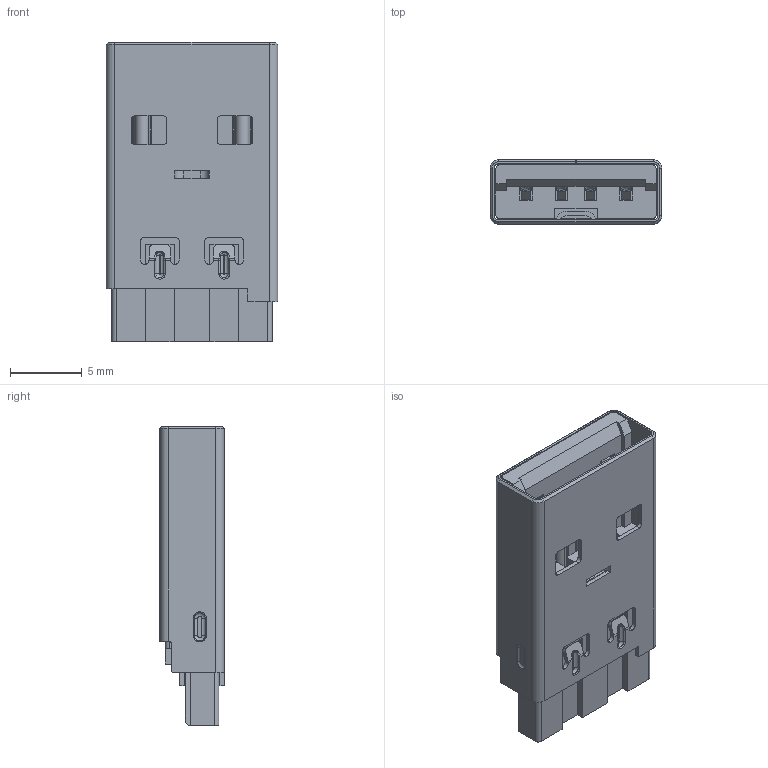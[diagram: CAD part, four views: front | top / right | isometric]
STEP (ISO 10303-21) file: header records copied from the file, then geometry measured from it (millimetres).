
FILE_DESCRIPTION(('STEP AP242'),'1');
FILE_NAME('691c104-290-120.stp','2023-08-29T02:45:16',('TraceParts'),('TraceParts S.A.'),'Spatial InterOp 3D',' ',' ');
FILE_SCHEMA(('AP242_MANAGED_MODEL_BASED_3D_ENGINEERING_MIM_LF {1 0 10303 442 1 1 4}'));
Length unit declared in the file: millimetre
Products named in the file (1): 691c104-290-120_1
Bounding box: 12 x 4.5 x 20.9 mm (x, y, z)
Volume: 630.2 mm3; surface area: 2246.7 mm2
Topology: 6 solids, 6 shells, 1007 faces, 2559 edges, 1508 vertices
Faces by surface type: plane 476, bspline 317, cylinder 210, cone 4
Entity records: 43356 total; most frequent: CARTESIAN_POINT 22263, ORIENTED_EDGE 5066, DIRECTION 3258, EDGE_CURVE 2533, VERTEX_POINT 1508, LINE 1322, VECTOR 1322, EDGE_LOOP 1025
